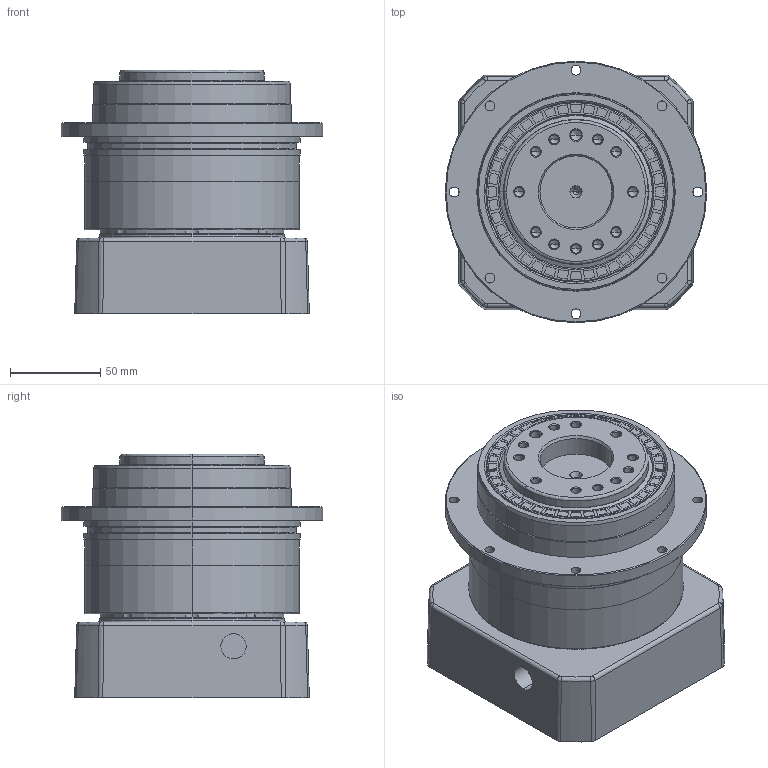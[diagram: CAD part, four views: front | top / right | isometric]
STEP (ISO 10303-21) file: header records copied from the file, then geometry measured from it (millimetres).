
FILE_DESCRIPTION (( 'STEP AP214' ), '1' );
FILE_NAME ('FAD110D-L1-22--110-145-M8.STEP', '2021-04-26T07:36:35', ( '微软用户' ), ( '微软中国' ), 'SwSTEP 2.0', 'SolidWorks 2014', '' );
FILE_SCHEMA (( 'AUTOMOTIVE_DESIGN' ));
Length unit declared in the file: millimetre
Products named in the file (31): 怀堤俴陎殤VRT110D; FAD110D-L1-22--110-145-M8; 蚐猾80x100x7; 输入太阳齿轮VRT115D-22; 输入锁紧环26X63.5X16; M5-12樓粟菜; 输入端壳体VRT110D; 镂空输入法兰-110X44.5XM8; M6-14樓粟菜; 输出内齿圈壳体VRT110D
Assembly tree (21 placements, depth 2):
  怀堤俴陎殤VRT110D
  FAD110D-L1-22--110-145-M8
    输出内齿圈壳体VRT110D
    怀堤俴陎殤VRT110D
    蚐猾80x100x7
    输入端壳体VRT110D
    镂空输入法兰-110X44.5XM8
    输入太阳齿轮VRT115D-22
    输入锁紧环26X63.5X16
    M5-12樓粟菜  x8
    M6-14樓粟菜  x6
  蚐猾80x100x7
  输入太阳齿轮VRT115D-22
  输入锁紧环26X63.5X16
Bounding box: 145 x 145 x 135 mm (x, y, z)
Volume: 1236520.9 mm3; surface area: 252414.5 mm2
Topology: 7 solids, 35 shells, 1493 faces, 3564 edges, 2135 vertices
Faces by surface type: plane 414, cylinder 386, bspline 383, cone 247, torus 32, sphere 31
Entity records: 49084 total; most frequent: CARTESIAN_POINT 23535, ORIENTED_EDGE 5408, DIRECTION 4880, EDGE_CURVE 2711, AXIS2_PLACEMENT_3D 2000, VERTEX_POINT 1646, EDGE_LOOP 1327, ADVANCED_FACE 1177
